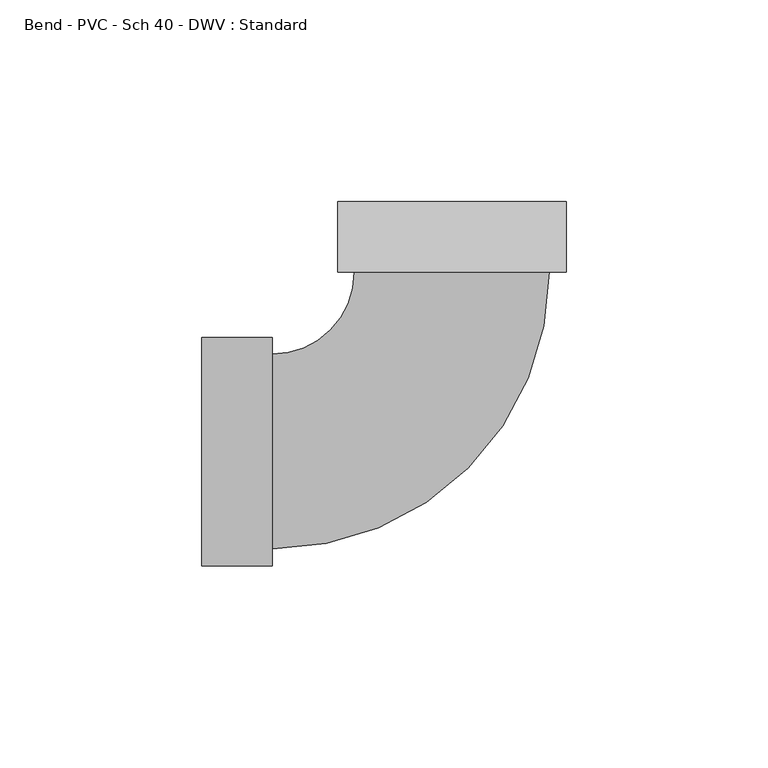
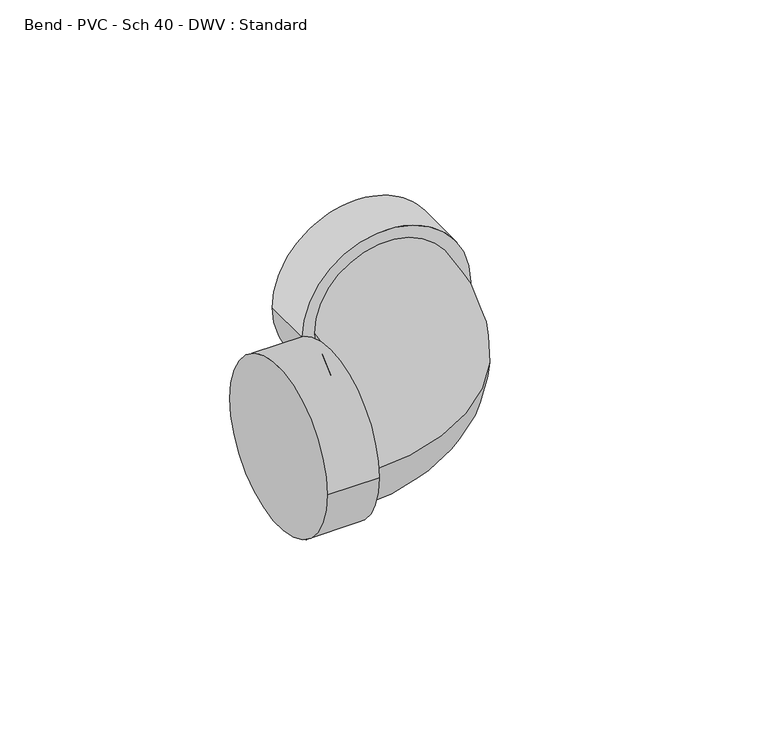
"""IFC4 building model written with IfcOpenShell, lengths in millimetres: pipe fitting geometry, Bend - PVC - Sch 40 - DWV : Standard."""

from ifc_helpers import new_model, si_unit, point, frame, origin, place, context, project, spatial, circle_curve, ellipse_curve, trimmed, source, transform, mapped, element, save
from ifc_brep_helpers import plane_surface, cylinder_surface, revolved_surface, advanced_brep


def bend_pvc_sch_40_dwv_standard_18acc2f6(model_context):
    return source(origin(), model_context, "Body", "AdvancedBrep", [
        advanced_brep(
        [(-61.8998, -28.2829, 0.0), (-61.8998, 28.2829, 0.0), (-44.45, -28.2829, 0.0), (-44.45, 28.2829, 0.0), (-44.45, -24.13, 0.0), (-44.45, 24.13, 0.0), (-24.1272276, 44.4515049, 0.0), (24.1327723, 44.4484949, 0.0), (28.2856723, 44.4482359, 0.0), (-28.2801276, 44.4517639, 0.0), (28.2867606, 61.8980359, 0.0), (-28.2790393, 61.9015639, 0.0)],
        [
            (0, 1, circle_curve(frame((-61.8998, 0.0, 0.0), z_axis=(-1.0, 0.0, 0.0), x_axis=(0.0, 1.0, 0.0)), 28.2829)),
            (1, 0, circle_curve(frame((-61.8998, 0.0, 0.0), z_axis=(-1.0, 0.0, 0.0), x_axis=(0.0, 1.0, 0.0)), 28.2829)),
            (2, 3, circle_curve(frame((-44.45, 0.0, 0.0), z_axis=(1.0, 0.0, 0.0), x_axis=(0.0, 1.0, 0.0)), 28.2829)),
            (3, 2, circle_curve(frame((-44.45, 0.0, 0.0), z_axis=(1.0, 0.0, 0.0), x_axis=(0.0, 1.0, 0.0)), 28.2829)),
            (4, 5, circle_curve(frame((-44.45, 0.0, 0.0), z_axis=(-1.0, 0.0, 0.0), x_axis=(0.0, 1.0, 0.0)), 24.13)),
            (5, 4, circle_curve(frame((-44.45, 0.0, 0.0), z_axis=(-1.0, 0.0, 0.0), x_axis=(0.0, 1.0, 0.0)), 24.13)),
            (0, 2),
            (3, 1),
            (6, 5, circle_curve(frame((-44.45, 44.4527724, 0.0), z_axis=(0.0, 0.0, -1.0), x_axis=(0.0, -1.0, 0.0)), 20.3227724)),
            (4, 7, circle_curve(frame((-44.45, 44.4527724, 0.0), z_axis=(0.0, 0.0, 1.0), x_axis=(0.0, -1.0, 0.0)), 68.5827724)),
            (7, 6, circle_curve(frame((0.0027723, 44.4499999, 0.0), z_axis=(-6.23694108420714e-05, -0.9999999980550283, 0.0), x_axis=(-0.9999999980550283, 6.23694108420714e-05, 0.0)), 24.13)),
            (6, 7, circle_curve(frame((0.0027723, 44.4499999, 0.0), z_axis=(-6.23694108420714e-05, -0.9999999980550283, 0.0), x_axis=(-0.9999999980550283, 6.23694108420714e-05, 0.0)), 24.13)),
            (8, 9, circle_curve(frame((0.0027723, 44.4499999, 0.0), z_axis=(-6.236941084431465e-05, -0.9999999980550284, 0.0), x_axis=(-0.9999999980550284, 6.236941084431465e-05, 0.0)), 28.2829)),
            (9, 8, circle_curve(frame((0.0027723, 44.4499999, 0.0), z_axis=(-6.236941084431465e-05, -0.9999999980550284, 0.0), x_axis=(-0.9999999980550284, 6.236941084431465e-05, 0.0)), 28.2829)),
            (10, 11, circle_curve(frame((0.0038607, 61.8997999, 0.0), z_axis=(6.236941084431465e-05, 0.9999999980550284, 0.0), x_axis=(-0.9999999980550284, 6.236941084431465e-05, 0.0)), 28.2829)),
            (11, 10, circle_curve(frame((0.0038607, 61.8997999, 0.0), z_axis=(6.236941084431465e-05, 0.9999999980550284, 0.0), x_axis=(-0.9999999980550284, 6.236941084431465e-05, 0.0)), 28.2829)),
            (8, 10),
            (11, 9),
        ],
        [
            plane_surface(frame((-61.8998, 0.0, 0.0), z_axis=(-1.0, 0.0, 0.0), x_axis=(0.0, 0.0, 1.0))),
            plane_surface(frame((-44.45, 0.0, 0.0), z_axis=(1.0, 0.0, 0.0), x_axis=(0.0, 0.0, 1.0))),
            cylinder_surface(frame((-61.8998, 0.0, 0.0), z_axis=(-1.0, 0.0, 0.0), x_axis=(0.0, 1.0, 0.0)), 28.2829),
            revolved_surface(trimmed(ellipse_curve(frame((-44.45, 0.0, 0.0), z_axis=(-1.0, 0.0, 0.0), x_axis=(0.0, 1.0, 0.0)), 24.13, 24.13), [point((-44.45, -24.13, 0.0))], [point((-44.45, 24.13, 0.0))], True, "CARTESIAN"), (-44.45, 44.4527724, 0.0), (0.0, 0.0, 1.0)),
            revolved_surface(trimmed(ellipse_curve(frame((-44.45, 0.0, 0.0), z_axis=(-1.0, 0.0, 0.0), x_axis=(0.0, 1.0, 0.0)), 24.13, 24.13), [point((-44.45, 24.13, 0.0))], [point((-44.45, -24.13, 0.0))], True, "CARTESIAN"), (-44.45, 44.4527724, 0.0), (0.0, 0.0, 1.0)),
            plane_surface(frame((0.0027723, 44.4499999, 0.0), z_axis=(-6.236941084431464e-05, -0.9999999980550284, 0.0), x_axis=(0.0, 0.0, 1.0))),
            plane_surface(frame((0.0038607, 61.8997999, 0.0), z_axis=(6.236941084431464e-05, 0.9999999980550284, 0.0), x_axis=(0.0, 0.0, 1.0))),
            cylinder_surface(frame((0.0027723, 44.4499999, 0.0), z_axis=(-6.236941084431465e-05, -0.9999999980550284, 0.0), x_axis=(-0.9999999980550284, 6.236941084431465e-05, 0.0)), 28.2829),
        ],
        [
            (0, [[1, 2]]),
            (1, [[3, 4], [5, 6]]),
            (2, [[-1, 7, -4, 8]]),
            (2, [[-2, -8, -3, -7]]),
            (3, [[9, -5, 10, 11]]),
            (4, [[-9, 12, -10, -6]]),
            (5, [[13, 14], [-11, -12]]),
            (6, [[15, 16]]),
            (7, [[-13, 17, -16, 18]]),
            (7, [[-14, -18, -15, -17]]),
        ],
    ),
    ])


if __name__ == "__main__":
    model = new_model("IFC4")
    model_context = context("Model", 3, world=origin())
    ifc_project = project(units=[si_unit("LENGTHUNIT", "METRE", prefix="MILLI")], contexts=[model_context])
    site = spatial("IfcSite", under=ifc_project)
    building = spatial("IfcBuilding", under=site)
    placement = place(None, origin())
    bend_pvc_sch_40_dwv_standard_shape = bend_pvc_sch_40_dwv_standard_18acc2f6(model_context)
    element("IfcPipeFitting", 1, ObjectType="Bend - PVC - Sch 40 - DWV : Standard", at=placement, inside=building, context=model_context, shape_type="MappedRepresentation", body=[
        mapped(bend_pvc_sch_40_dwv_standard_shape, transform((0.0, 0.0, 0.0), x_axis=(1.0, 0.0, 0.0), y_axis=(0.0, 1.0, 0.0), z_axis=(0.0, 0.0, 1.0))),
    ])
    save(model, "model.ifc")
